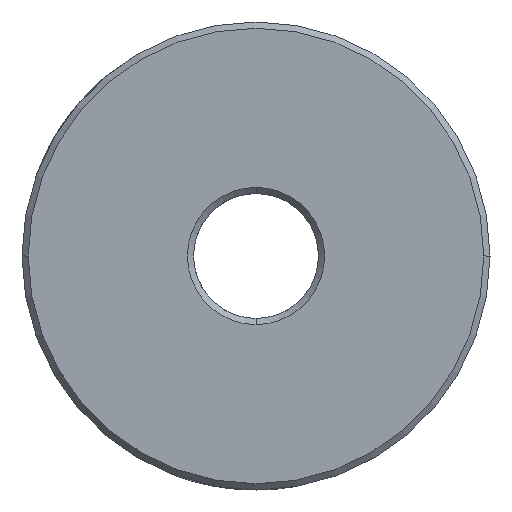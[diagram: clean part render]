
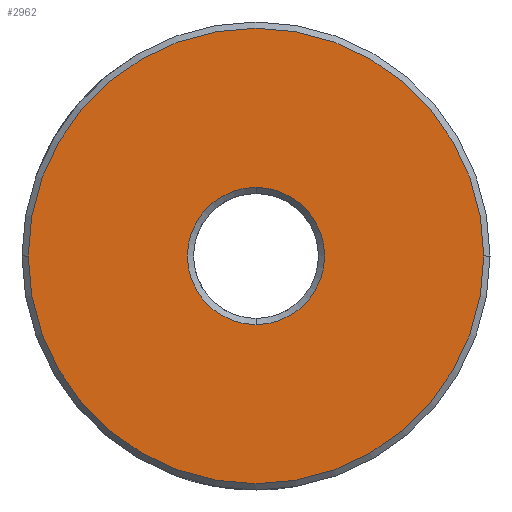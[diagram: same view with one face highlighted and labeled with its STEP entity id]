
A CAD part, left-side view. The second image highlights one B-rep face of the part: STEP entity #2962.
In plain terms, the highlighted planar face has unit normal (-1, 0, 0).
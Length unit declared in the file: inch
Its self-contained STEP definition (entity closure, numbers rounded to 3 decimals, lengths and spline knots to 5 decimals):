
#135 = CARTESIAN_POINT ( 'NONE',  ( -0.72283, 0., 0. ) ) ;
#806 = AXIS2_PLACEMENT_3D ( 'NONE', #18584, #5600, #12713 ) ;
#1673 = EDGE_LOOP ( 'NONE', ( #7042, #17050 ) ) ;
#2354 = DIRECTION ( 'NONE',  ( -1., 0., 0. ) ) ;
#2962 = ADVANCED_FACE ( 'NONE', ( #14706, #14459 ), #12692, .F. ) ;
#3052 = CARTESIAN_POINT ( 'NONE',  ( -0.72283, 0., 0.08661 ) ) ;
#3117 = CARTESIAN_POINT ( 'NONE',  ( -0.72283, 0., -0.08661 ) ) ;
#3160 = CIRCLE ( 'NONE', #12080, 0.2874 ) ;
#3257 = VERTEX_POINT ( 'NONE', #3052 ) ;
#3314 = VERTEX_POINT ( 'NONE', #3117 ) ;
#3554 = VERTEX_POINT ( 'NONE', #10766 ) ;
#3714 = ORIENTED_EDGE ( 'NONE', *, *, #18505, .F. ) ;
#3738 = VERTEX_POINT ( 'NONE', #11006 ) ;
#3762 = DIRECTION ( 'NONE',  ( 0., 0., -1. ) ) ;
#5600 = DIRECTION ( 'NONE',  ( -1., 0., 0. ) ) ;
#7042 = ORIENTED_EDGE ( 'NONE', *, *, #7161, .F. ) ;
#7161 = EDGE_CURVE ( 'NONE', #3554, #3738, #8843, .T. ) ;
#7414 = CARTESIAN_POINT ( 'NONE',  ( -0.72283, 0., 0. ) ) ;
#7957 = CIRCLE ( 'NONE', #11326, 0.08661 ) ;
#8411 = CIRCLE ( 'NONE', #806, 0.08661 ) ;
#8843 = CIRCLE ( 'NONE', #16504, 0.2874 ) ;
#8957 = DIRECTION ( 'NONE',  ( 1., 0., 0. ) ) ;
#9746 = DIRECTION ( 'NONE',  ( 1., 0., 0. ) ) ;
#10023 = EDGE_CURVE ( 'NONE', #3738, #3554, #3160, .T. ) ;
#10220 = DIRECTION ( 'NONE',  ( 1., 0., 0. ) ) ;
#10412 = DIRECTION ( 'NONE',  ( 0., 1., 0. ) ) ;
#10766 = CARTESIAN_POINT ( 'NONE',  ( -0.72283, 0.2874, 0. ) ) ;
#10866 = EDGE_LOOP ( 'NONE', ( #3714, #15913 ) ) ;
#11006 = CARTESIAN_POINT ( 'NONE',  ( -0.72283, -0.2874, 0. ) ) ;
#11149 = CARTESIAN_POINT ( 'NONE',  ( -0.72283, 0., 0. ) ) ;
#11181 = EDGE_CURVE ( 'NONE', #3314, #3257, #8411, .T. ) ;
#11326 = AXIS2_PLACEMENT_3D ( 'NONE', #11149, #2354, #13946 ) ;
#11958 = DIRECTION ( 'NONE',  ( 0., 1., 0. ) ) ;
#12080 = AXIS2_PLACEMENT_3D ( 'NONE', #135, #10220, #10412 ) ;
#12568 = CARTESIAN_POINT ( 'NONE',  ( -0.72283, 0., 0. ) ) ;
#12692 = PLANE ( 'NONE',  #16066 ) ;
#12713 = DIRECTION ( 'NONE',  ( 0., 0., 1. ) ) ;
#13946 = DIRECTION ( 'NONE',  ( 0., 0., 1. ) ) ;
#14459 = FACE_OUTER_BOUND ( 'NONE', #1673, .T. ) ;
#14706 = FACE_BOUND ( 'NONE', #10866, .T. ) ;
#15913 = ORIENTED_EDGE ( 'NONE', *, *, #11181, .F. ) ;
#16066 = AXIS2_PLACEMENT_3D ( 'NONE', #12568, #9746, #3762 ) ;
#16504 = AXIS2_PLACEMENT_3D ( 'NONE', #7414, #8957, #11958 ) ;
#17050 = ORIENTED_EDGE ( 'NONE', *, *, #10023, .F. ) ;
#18505 = EDGE_CURVE ( 'NONE', #3257, #3314, #7957, .T. ) ;
#18584 = CARTESIAN_POINT ( 'NONE',  ( -0.72283, 0., 0. ) ) ;
